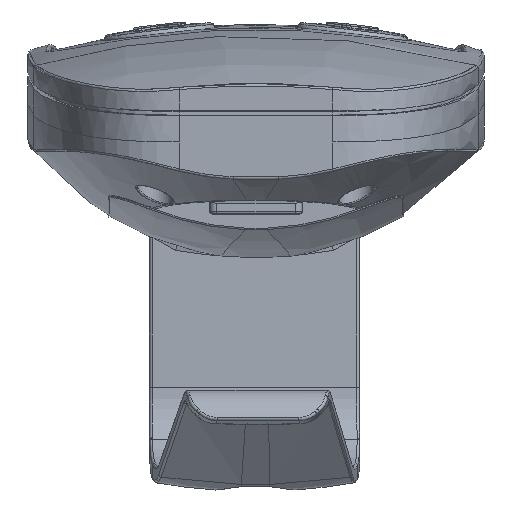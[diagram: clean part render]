
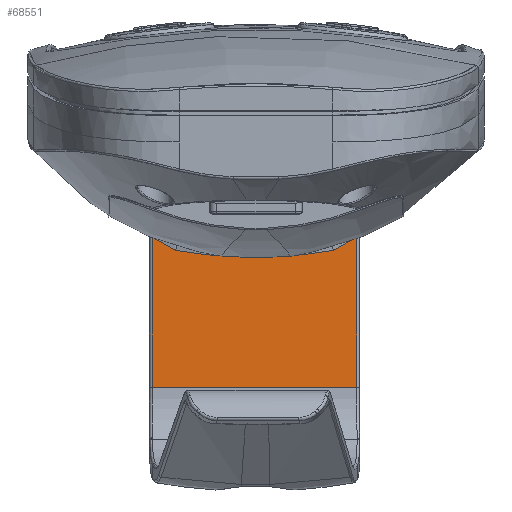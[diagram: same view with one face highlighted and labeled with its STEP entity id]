
A CAD part, top view. The second image highlights one B-rep face of the part: STEP entity #68551.
In plain terms, the highlighted planar face has unit normal (0.009, 0, 1).
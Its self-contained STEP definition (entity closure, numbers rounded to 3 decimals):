
#64399=CARTESIAN_POINT('',(-9.601,-27.487,
-11.889));
#64413=CARTESIAN_POINT('',(-2.114,-28.226,
-11.955));
#64415=CARTESIAN_POINT('',(-2.114,-28.226,
-11.955));
#64416=CARTESIAN_POINT('',(-2.953,-28.22,
-11.947));
#64417=CARTESIAN_POINT('',(-4.627,-28.157,
-11.933));
#64418=CARTESIAN_POINT('',(-7.126,-27.91,
-11.911));
#64419=CARTESIAN_POINT('',(-8.778,-27.645,
-11.897));
#64420=CARTESIAN_POINT('',(-9.601,-27.487,
-11.889));
#64431=CARTESIAN_POINT('',(-12.379,-25.948,
-11.865));
#64447=CARTESIAN_POINT('',(-9.601,-27.487,
-11.889));
#64448=CARTESIAN_POINT('',(-9.919,-27.333,
-11.887));
#64449=CARTESIAN_POINT('',(-10.548,-27.014,
-11.881));
#64450=CARTESIAN_POINT('',(-11.475,-26.5,
-11.873));
#64451=CARTESIAN_POINT('',(-12.08,-26.136,
-11.868));
#64452=CARTESIAN_POINT('',(-12.379,-25.948,
-11.865));
#64639=DIRECTION('',(0.,-1.,0.));
#64640=VECTOR('',#64639,17.87);
#64641=CARTESIAN_POINT('',(-12.379,-25.948,
-11.865));
#64642=LINE('',#64641,#64640);
#64643=CARTESIAN_POINT('',(1.756,-28.226,
-11.988));
#64644=CARTESIAN_POINT('',(0.466,-28.235,
-11.977));
#64645=CARTESIAN_POINT('',(-0.824,-28.235,
-11.966));
#64646=CARTESIAN_POINT('',(-2.114,-28.226,
-11.955));
#64648=CARTESIAN_POINT('',(9.234,-27.489,
-12.053));
#64649=CARTESIAN_POINT('',(8.413,-27.646,
-12.046));
#64650=CARTESIAN_POINT('',(6.764,-27.911,
-12.032));
#64651=CARTESIAN_POINT('',(4.261,-28.157,
-12.01));
#64652=CARTESIAN_POINT('',(2.592,-28.22,
-11.996));
#64653=CARTESIAN_POINT('',(1.756,-28.226,
-11.988));
#64655=CARTESIAN_POINT('',(12.021,-25.945,
-12.078));
#64656=CARTESIAN_POINT('',(11.721,-26.134,
-12.075));
#64657=CARTESIAN_POINT('',(11.115,-26.499,
-12.07));
#64658=CARTESIAN_POINT('',(10.185,-27.015,
-12.062));
#64659=CARTESIAN_POINT('',(9.553,-27.335,
-12.056));
#64660=CARTESIAN_POINT('',(9.234,-27.489,
-12.053));
#65675=DIRECTION('',(-1.,0.,0.009));
#65676=VECTOR('',#65675,24.4);
#65677=CARTESIAN_POINT('',(12.021,-43.818,
-12.078));
#65678=LINE('',#65677,#65676);
#66589=DIRECTION('',(0.,1.,0.));
#66590=VECTOR('',#66589,17.872);
#66591=CARTESIAN_POINT('',(12.021,-43.818,
-12.078));
#66592=LINE('',#66591,#66590);
#67109=VERTEX_POINT('',#64413);
#67110=VERTEX_POINT('',#64643);
#67111=VERTEX_POINT('',#64399);
#67114=VERTEX_POINT('',#64431);
#67157=CARTESIAN_POINT('',(-12.379,-43.818,
-11.865));
#67158=VERTEX_POINT('',#67157);
#67159=VERTEX_POINT('',#64648);
#67160=VERTEX_POINT('',#64655);
#67161=CARTESIAN_POINT('',(12.021,-43.818,
-12.078));
#67162=VERTEX_POINT('',#67161);
#68532=CARTESIAN_POINT('',(-0.179,-34.882,
-11.971));
#68533=DIRECTION('',(0.009,0.,1.));
#68534=DIRECTION('',(0.,-1.,0.));
#68535=AXIS2_PLACEMENT_3D('',#68532,#68533,#68534);
#68536=PLANE('',#68535);
#68537=ORIENTED_EDGE('',*,*,#68526,.F.);
#68538=ORIENTED_EDGE('',*,*,#67861,.F.);
#68539=ORIENTED_EDGE('',*,*,#67771,.F.);
#68540=ORIENTED_EDGE('',*,*,#67736,.F.);
#68542=ORIENTED_EDGE('',*,*,#68541,.F.);
#68544=ORIENTED_EDGE('',*,*,#68543,.F.);
#68546=ORIENTED_EDGE('',*,*,#68545,.F.);
#68548=ORIENTED_EDGE('',*,*,#68547,.T.);
#68549=EDGE_LOOP('',(#68537,#68538,#68539,#68540,#68542,#68544,#68546,#68548));
#68550=FACE_OUTER_BOUND('',#68549,.F.);
#68551=ADVANCED_FACE('',(#68550),#68536,.T.);
#64421=B_SPLINE_CURVE_WITH_KNOTS('',3,(#64415,#64416,#64417,#64418,#64419,
#64420),.UNSPECIFIED.,.F.,.F.,(4,1,1,4),(0.,0.333,
0.667,1.),.UNSPECIFIED.);
#64453=B_SPLINE_CURVE_WITH_KNOTS('',3,(#64447,#64448,#64449,#64450,#64451,
#64452),.UNSPECIFIED.,.F.,.F.,(4,1,1,4),(0.,0.333,
0.667,1.),.UNSPECIFIED.);
#64647=B_SPLINE_CURVE_WITH_KNOTS('',3,(#64643,#64644,#64645,#64646),
.UNSPECIFIED.,.F.,.F.,(4,4),(0.,1.),.UNSPECIFIED.);
#64654=B_SPLINE_CURVE_WITH_KNOTS('',3,(#64648,#64649,#64650,#64651,#64652,
#64653),.UNSPECIFIED.,.F.,.F.,(4,1,1,4),(0.,0.333,
0.667,1.),.UNSPECIFIED.);
#64661=B_SPLINE_CURVE_WITH_KNOTS('',3,(#64655,#64656,#64657,#64658,#64659,
#64660),.UNSPECIFIED.,.F.,.F.,(4,1,1,4),(0.,0.333,
0.667,1.),.UNSPECIFIED.);
#67736=EDGE_CURVE('',#67110,#67109,#64647,.T.);
#67771=EDGE_CURVE('',#67109,#67111,#64421,.T.);
#67861=EDGE_CURVE('',#67111,#67114,#64453,.T.);
#68526=EDGE_CURVE('',#67114,#67158,#64642,.T.);
#68541=EDGE_CURVE('',#67159,#67110,#64654,.T.);
#68543=EDGE_CURVE('',#67160,#67159,#64661,.T.);
#68545=EDGE_CURVE('',#67162,#67160,#66592,.T.);
#68547=EDGE_CURVE('',#67162,#67158,#65678,.T.);
